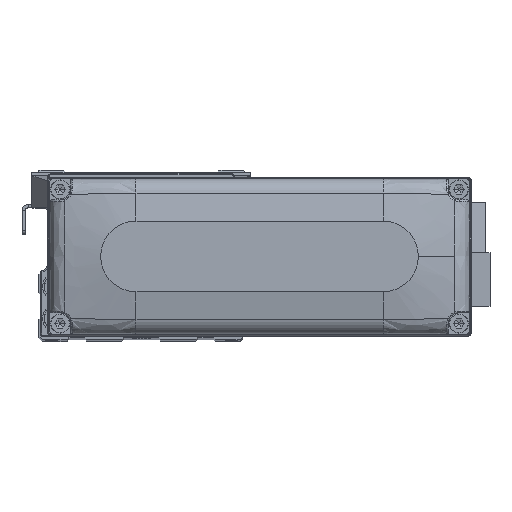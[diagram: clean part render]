
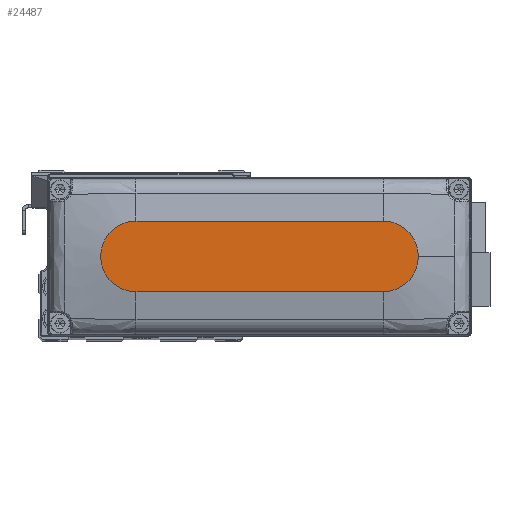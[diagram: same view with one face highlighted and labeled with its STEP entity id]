
A CAD part, top view. The second image highlights one B-rep face of the part: STEP entity #24487.
In plain terms, the highlighted planar face has unit normal (0, 0, 1).
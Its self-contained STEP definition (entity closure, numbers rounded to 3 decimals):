
#282 = CARTESIAN_POINT ( 'NONE',  ( 35., 0., 28. ) ) ;
#355 = CARTESIAN_POINT ( 'NONE',  ( -35., 10., 28. ) ) ;
#2156 = DIRECTION ( 'NONE',  ( 1., 0., 0. ) ) ;
#2665 = ORIENTED_EDGE ( 'NONE', *, *, #28280, .T. ) ;
#2762 = VECTOR ( 'NONE', #20435, 1000. ) ;
#3004 = ORIENTED_EDGE ( 'NONE', *, *, #20106, .T. ) ;
#3857 = DIRECTION ( 'NONE',  ( 1., 0., 0. ) ) ;
#5310 = PLANE ( 'NONE',  #22865 ) ;
#5366 = ORIENTED_EDGE ( 'NONE', *, *, #15226, .T. ) ;
#5513 = CARTESIAN_POINT ( 'NONE',  ( -35., 10., 28. ) ) ;
#7402 = DIRECTION ( 'NONE',  ( 1., 0., 0. ) ) ;
#7642 = CARTESIAN_POINT ( 'NONE',  ( -35., -10., 28. ) ) ;
#9232 = VERTEX_POINT ( 'NONE', #30131 ) ;
#9367 = CARTESIAN_POINT ( 'NONE',  ( -35., -10., 28. ) ) ;
#11069 = EDGE_CURVE ( 'NONE', #35049, #14747, #34279, .T. ) ;
#13095 = DIRECTION ( 'NONE',  ( 0., 0., 1. ) ) ;
#14747 = VERTEX_POINT ( 'NONE', #355 ) ;
#15226 = EDGE_CURVE ( 'NONE', #14747, #27153, #38276, .T. ) ;
#16803 = CIRCLE ( 'NONE', #40304, 10. ) ;
#17897 = AXIS2_PLACEMENT_3D ( 'NONE', #23352, #36169, #7402 ) ;
#17970 = VERTEX_POINT ( 'NONE', #20051 ) ;
#18103 = CARTESIAN_POINT ( 'NONE',  ( 0., 0., 28. ) ) ;
#18294 = DIRECTION ( 'NONE',  ( -1., 0., 0. ) ) ;
#19806 = CARTESIAN_POINT ( 'NONE',  ( -35., 0., 28. ) ) ;
#20040 = ORIENTED_EDGE ( 'NONE', *, *, #11069, .T. ) ;
#20051 = CARTESIAN_POINT ( 'NONE',  ( 35., -10., 28. ) ) ;
#20106 = EDGE_CURVE ( 'NONE', #27153, #17970, #36413, .T. ) ;
#20147 = AXIS2_PLACEMENT_3D ( 'NONE', #19806, #32628, #3857 ) ;
#20435 = DIRECTION ( 'NONE',  ( 1., 0., 0. ) ) ;
#22865 = AXIS2_PLACEMENT_3D ( 'NONE', #18103, #30929, #2156 ) ;
#23352 = CARTESIAN_POINT ( 'NONE',  ( 35., 0., 28. ) ) ;
#24224 = EDGE_CURVE ( 'NONE', #17970, #9232, #16803, .T. ) ;
#24487 = ADVANCED_FACE ( 'NONE', ( #34067 ), #5310, .T. ) ;
#25897 = DIRECTION ( 'NONE',  ( 1., 0., 0. ) ) ;
#26701 = VECTOR ( 'NONE', #18294, 1000. ) ;
#27153 = VERTEX_POINT ( 'NONE', #9367 ) ;
#28280 = EDGE_CURVE ( 'NONE', #9232, #35049, #36002, .T. ) ;
#30131 = CARTESIAN_POINT ( 'NONE',  ( 45., 0., 28. ) ) ;
#30601 = EDGE_LOOP ( 'NONE', ( #20040, #5366, #3004, #38496, #2665 ) ) ;
#30929 = DIRECTION ( 'NONE',  ( 0., 0., 1. ) ) ;
#32628 = DIRECTION ( 'NONE',  ( 0., 0., 1. ) ) ;
#34067 = FACE_OUTER_BOUND ( 'NONE', #30601, .T. ) ;
#34279 = LINE ( 'NONE', #5513, #26701 ) ;
#35049 = VERTEX_POINT ( 'NONE', #39815 ) ;
#36002 = CIRCLE ( 'NONE', #17897, 10. ) ;
#36169 = DIRECTION ( 'NONE',  ( 0., 0., 1. ) ) ;
#36413 = LINE ( 'NONE', #7642, #2762 ) ;
#38276 = CIRCLE ( 'NONE', #20147, 10. ) ;
#38496 = ORIENTED_EDGE ( 'NONE', *, *, #24224, .T. ) ;
#39815 = CARTESIAN_POINT ( 'NONE',  ( 35., 10., 28. ) ) ;
#40304 = AXIS2_PLACEMENT_3D ( 'NONE', #282, #13095, #25897 ) ;
